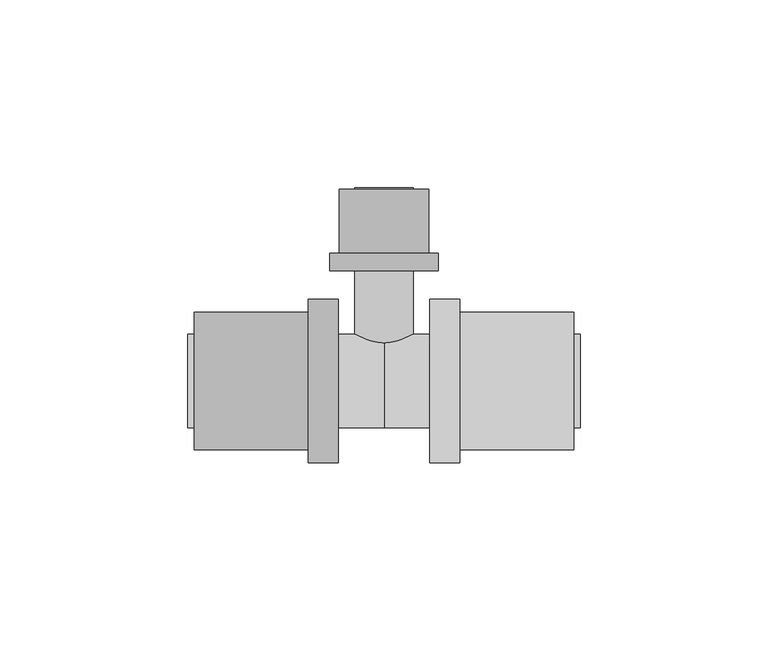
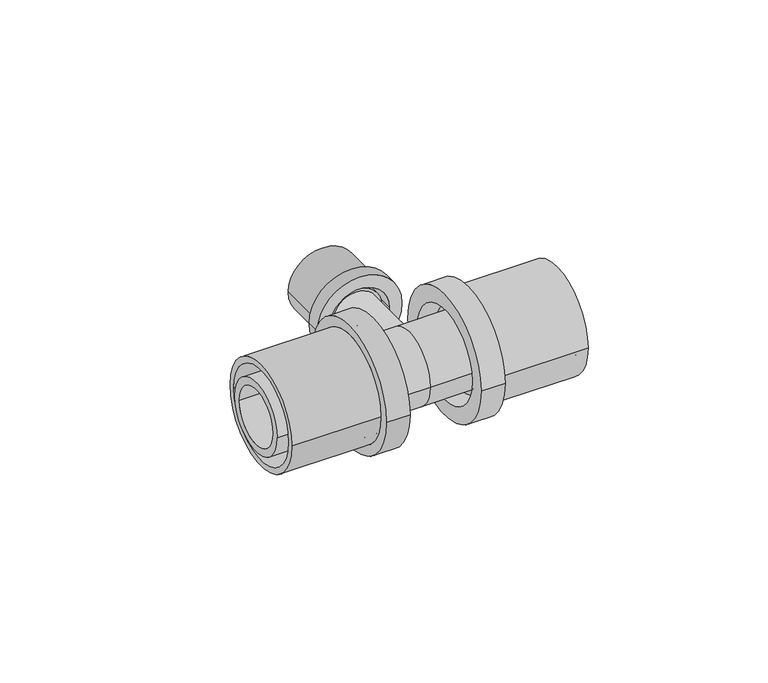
"""IFC4 building model written with IfcOpenShell, lengths in millimetres: pipe fitting geometry, FASTLOC_T-piece_EX+ : FSL T-Piece EX+ AT."""

from ifc_helpers import new_model, si_unit, frame, origin, place, context, project, spatial, polyline, circle_curve, source, transform, mapped, element, save
from ifc_brep_helpers import plane_surface, cylinder_surface, revolved_surface, advanced_brep


def pipe_fitting_048a34f4(model_context):
    return source(origin(), model_context, "Body", "AdvancedBrep", [
        advanced_brep(
        [(20.2, 21.8, 0.0), (20.2, -21.8, 0.0), (12.2, -21.8, 0.0), (12.2, 21.8, 0.0), (50.5, 18.35, 0.0), (50.5, -18.35, 0.0), (20.2, -18.35, 0.0), (20.2, 18.35, 0.0), (12.2, 16.2, 0.0), (12.2, -16.2, 0.0), (50.5, -16.2, 0.0), (50.5, 16.2, 0.0)],
        [
            (0, 1, circle_curve(frame((20.2, 0.0, 0.0), z_axis=(-1.0, 0.0, 0.0), x_axis=(0.0, -1.0, 0.0)), 21.8)),
            (1, 2),
            (2, 3, circle_curve(frame((12.2, 0.0, 0.0), z_axis=(1.0, 0.0, 0.0), x_axis=(0.0, -1.0, 0.0)), 21.8)),
            (3, 0),
            (4, 5, circle_curve(frame((50.5, 0.0, 0.0), z_axis=(-1.0, 0.0, 0.0), x_axis=(0.0, -1.0, 0.0)), 18.35)),
            (5, 6),
            (6, 7, circle_curve(frame((20.2, 0.0, 0.0), z_axis=(1.0, 0.0, 0.0), x_axis=(0.0, -1.0, 0.0)), 18.35)),
            (7, 4),
            (8, 9, circle_curve(frame((12.2, 0.0, 0.0), z_axis=(-1.0, 0.0, 0.0), x_axis=(0.0, -1.0, 0.0)), 16.2)),
            (9, 10),
            (10, 11, circle_curve(frame((50.5, 0.0, 0.0), z_axis=(1.0, 0.0, 0.0), x_axis=(0.0, -1.0, 0.0)), 16.2)),
            (11, 8),
            (1, 0, circle_curve(frame((20.2, 0.0, 0.0), z_axis=(-1.0, 0.0, 0.0), x_axis=(0.0, 1.0, 0.0)), 21.8)),
            (3, 2, circle_curve(frame((12.2, 0.0, 0.0), z_axis=(1.0, 0.0, 0.0), x_axis=(0.0, 1.0, 0.0)), 21.8)),
            (6, 7, circle_curve(frame((20.2, 0.0, 0.0), z_axis=(-1.0, 0.0, 0.0), x_axis=(0.0, 1.0, 0.0)), 18.35)),
            (5, 4, circle_curve(frame((50.5, 0.0, 0.0), z_axis=(-1.0, 0.0, 0.0), x_axis=(0.0, 1.0, 0.0)), 18.35)),
            (10, 11, circle_curve(frame((50.5, 0.0, 0.0), z_axis=(-1.0, 0.0, 0.0), x_axis=(0.0, 1.0, 0.0)), 16.2)),
            (9, 8, circle_curve(frame((12.2, 0.0, 0.0), z_axis=(-1.0, 0.0, 0.0), x_axis=(0.0, 1.0, 0.0)), 16.2)),
        ],
        [
            cylinder_surface(frame((12.2, 0.0, 0.0), z_axis=(1.0, 0.0, 0.0), x_axis=(0.0, -1.0, 0.0)), 21.8),
            cylinder_surface(frame((12.2, 0.0, 0.0), z_axis=(1.0, 0.0, 0.0), x_axis=(0.0, -1.0, 0.0)), 18.35),
            revolved_surface(polyline([(50.5, -16.2, 0.0), (12.2, -16.2, 0.0)]), (12.2, 0.0, 0.0), (1.0, 0.0, 0.0)),
            cylinder_surface(frame((12.2, 0.0, 0.0), z_axis=(1.0, 0.0, 0.0), x_axis=(0.0, 1.0, 0.0)), 21.8),
            plane_surface(frame((20.2, 0.0, 0.0), z_axis=(1.0, 0.0, 0.0), x_axis=(0.0, 1.0, 0.0))),
            cylinder_surface(frame((12.2, 0.0, 0.0), z_axis=(1.0, 0.0, 0.0), x_axis=(0.0, 1.0, 0.0)), 18.35),
            plane_surface(frame((50.5, 0.0, 0.0), z_axis=(1.0, 0.0, 0.0), x_axis=(0.0, 1.0, 0.0))),
            revolved_surface(polyline([(50.5, 16.2, 0.0), (12.2, 16.2, 0.0)]), (12.2, 0.0, 0.0), (1.0, 0.0, 0.0)),
            plane_surface(frame((12.2, 0.0, 0.0), z_axis=(-1.0, 0.0, 0.0), x_axis=(0.0, 1.0, 0.0))),
        ],
        [
            (0, [[1, 2, 3, 4]]),
            (1, [[5, 6, 7, 8]]),
            (2, [[9, 10, 11, 12]]),
            (3, [[13, -4, 14, -2]]),
            (4, [[-13, -1], [15, -7]]),
            (5, [[16, -8, -15, -6]]),
            (6, [[-16, -5], [17, -11]]),
            (7, [[18, -12, -17, -10]]),
            (8, [[-14, -3], [-18, -9]]),
        ],
    ),
        advanced_brep(
        [(-20.2, -21.8, 0.0), (-20.2, 21.8, 0.0), (-12.2, 21.8, 0.0), (-12.2, -21.8, 0.0), (-50.5, -18.35, 0.0), (-50.5, 18.35, 0.0), (-20.2, 18.35, 0.0), (-20.2, -18.35, 0.0), (-12.2, -16.2, 0.0), (-12.2, 16.2, 0.0), (-50.5, 16.2, 0.0), (-50.5, -16.2, 0.0)],
        [
            (0, 1, circle_curve(frame((-20.2, 0.0, 0.0), z_axis=(1.0, 0.0, 0.0), x_axis=(0.0, 1.0, 0.0)), 21.8)),
            (1, 2),
            (2, 3, circle_curve(frame((-12.2, 0.0, 0.0), z_axis=(-1.0, 0.0, 0.0), x_axis=(0.0, 1.0, 0.0)), 21.8)),
            (3, 0),
            (4, 5, circle_curve(frame((-50.5, 0.0, 0.0), z_axis=(1.0, 0.0, 0.0), x_axis=(0.0, 1.0, 0.0)), 18.35)),
            (5, 6),
            (6, 7, circle_curve(frame((-20.2, 0.0, 0.0), z_axis=(-1.0, 0.0, 0.0), x_axis=(0.0, 1.0, 0.0)), 18.35)),
            (7, 4),
            (8, 9, circle_curve(frame((-12.2, 0.0, 0.0), z_axis=(1.0, 0.0, 0.0), x_axis=(0.0, 1.0, 0.0)), 16.2)),
            (9, 10),
            (10, 11, circle_curve(frame((-50.5, 0.0, 0.0), z_axis=(-1.0, 0.0, 0.0), x_axis=(0.0, 1.0, 0.0)), 16.2)),
            (11, 8),
            (1, 0, circle_curve(frame((-20.2, 0.0, 0.0), z_axis=(1.0, 0.0, 0.0), x_axis=(0.0, -1.0, 0.0)), 21.8)),
            (3, 2, circle_curve(frame((-12.2, 0.0, 0.0), z_axis=(-1.0, 0.0, 0.0), x_axis=(0.0, -1.0, 0.0)), 21.8)),
            (6, 7, circle_curve(frame((-20.2, 0.0, 0.0), z_axis=(1.0, 0.0, 0.0), x_axis=(0.0, -1.0, 0.0)), 18.35)),
            (5, 4, circle_curve(frame((-50.5, 0.0, 0.0), z_axis=(1.0, 0.0, 0.0), x_axis=(0.0, -1.0, 0.0)), 18.35)),
            (10, 11, circle_curve(frame((-50.5, 0.0, 0.0), z_axis=(1.0, 0.0, 0.0), x_axis=(0.0, -1.0, 0.0)), 16.2)),
            (9, 8, circle_curve(frame((-12.2, 0.0, 0.0), z_axis=(1.0, 0.0, 0.0), x_axis=(0.0, -1.0, 0.0)), 16.2)),
        ],
        [
            cylinder_surface(frame((-12.2, 0.0, 0.0), z_axis=(-1.0, 0.0, 0.0), x_axis=(0.0, 1.0, 0.0)), 21.8),
            cylinder_surface(frame((-12.2, 0.0, 0.0), z_axis=(-1.0, 0.0, 0.0), x_axis=(0.0, 1.0, 0.0)), 18.35),
            revolved_surface(polyline([(-50.5, 16.2, 0.0), (-12.2, 16.2, 0.0)]), (-12.2, 0.0, 0.0), (-1.0, 0.0, 0.0)),
            cylinder_surface(frame((-12.2, 0.0, 0.0), z_axis=(-1.0, 0.0, 0.0), x_axis=(0.0, -1.0, 0.0)), 21.8),
            plane_surface(frame((-20.2, 0.0, 0.0), z_axis=(-1.0, 0.0, 0.0), x_axis=(0.0, -1.0, 0.0))),
            cylinder_surface(frame((-12.2, 0.0, 0.0), z_axis=(-1.0, 0.0, 0.0), x_axis=(0.0, -1.0, 0.0)), 18.35),
            plane_surface(frame((-50.5, 0.0, 0.0), z_axis=(-1.0, 0.0, 0.0), x_axis=(0.0, -1.0, 0.0))),
            revolved_surface(polyline([(-50.5, -16.2, 0.0), (-12.2, -16.2, 0.0)]), (-12.2, 0.0, 0.0), (-1.0, 0.0, 0.0)),
            plane_surface(frame((-12.2, 0.0, 0.0), z_axis=(1.0, 0.0, 0.0), x_axis=(0.0, -1.0, 0.0))),
        ],
        [
            (0, [[1, 2, 3, 4]]),
            (1, [[5, 6, 7, 8]]),
            (2, [[9, 10, 11, 12]]),
            (3, [[13, -4, 14, -2]]),
            (4, [[-13, -1], [15, -7]]),
            (5, [[16, -8, -15, -6]]),
            (6, [[-16, -5], [17, -11]]),
            (7, [[18, -12, -17, -10]]),
            (8, [[-14, -3], [-18, -9]]),
        ],
    ),
        advanced_brep(
        [(-14.5, 34.0, 0.0), (14.5, 34.0, 0.0), (14.5, 29.3, 0.0), (-14.5, 29.3, 0.0), (-11.85, 51.0, 0.0), (11.85, 51.0, 0.0), (11.85, 34.0, 0.0), (-11.85, 34.0, 0.0), (-10.15, 29.3, 0.0), (10.15, 29.3, 0.0), (10.15, 51.0, 0.0), (-10.15, 51.0, 0.0)],
        [
            (0, 1, circle_curve(frame((0.0, 34.0, 0.0), z_axis=(0.0, -1.0, 0.0), x_axis=(1.0, 0.0, 0.0)), 14.5)),
            (1, 2),
            (2, 3, circle_curve(frame((0.0, 29.3, 0.0), z_axis=(0.0, 1.0, 0.0), x_axis=(1.0, 0.0, 0.0)), 14.5)),
            (3, 0),
            (4, 5, circle_curve(frame((0.0, 51.0, 0.0), z_axis=(0.0, -1.0, 0.0), x_axis=(1.0, 0.0, 0.0)), 11.85)),
            (5, 6),
            (6, 7, circle_curve(frame((0.0, 34.0, 0.0), z_axis=(0.0, 1.0, 0.0), x_axis=(1.0, 0.0, 0.0)), 11.85)),
            (7, 4),
            (8, 9, circle_curve(frame((0.0, 29.3, 0.0), z_axis=(0.0, -1.0, 0.0), x_axis=(1.0, 0.0, 0.0)), 10.15)),
            (9, 10),
            (10, 11, circle_curve(frame((0.0, 51.0, 0.0), z_axis=(0.0, 1.0, 0.0), x_axis=(1.0, 0.0, 0.0)), 10.15)),
            (11, 8),
            (1, 0, circle_curve(frame((0.0, 34.0, 0.0), z_axis=(0.0, -1.0, 0.0), x_axis=(-1.0, 0.0, 0.0)), 14.5)),
            (3, 2, circle_curve(frame((0.0, 29.3, 0.0), z_axis=(0.0, 1.0, 0.0), x_axis=(-1.0, 0.0, 0.0)), 14.5)),
            (6, 7, circle_curve(frame((0.0, 34.0, 0.0), z_axis=(0.0, -1.0, 0.0), x_axis=(-1.0, 0.0, 0.0)), 11.85)),
            (5, 4, circle_curve(frame((0.0, 51.0, 0.0), z_axis=(0.0, -1.0, 0.0), x_axis=(-1.0, 0.0, 0.0)), 11.85)),
            (10, 11, circle_curve(frame((0.0, 51.0, 0.0), z_axis=(0.0, -1.0, 0.0), x_axis=(-1.0, 0.0, 0.0)), 10.15)),
            (9, 8, circle_curve(frame((0.0, 29.3, 0.0), z_axis=(0.0, -1.0, 0.0), x_axis=(-1.0, 0.0, 0.0)), 10.15)),
        ],
        [
            cylinder_surface(frame((0.0, 29.3, 0.0), z_axis=(0.0, 1.0, 0.0), x_axis=(1.0, 0.0, 0.0)), 14.5),
            cylinder_surface(frame((0.0, 29.3, 0.0), z_axis=(0.0, 1.0, 0.0), x_axis=(1.0, 0.0, 0.0)), 11.85),
            revolved_surface(polyline([(10.15, 51.0, 0.0), (10.15, 29.3, 0.0)]), (0.0, 29.3, 0.0), (0.0, 1.0, 0.0)),
            cylinder_surface(frame((0.0, 29.3, 0.0), z_axis=(0.0, 1.0, 0.0), x_axis=(-1.0, 0.0, 0.0)), 14.5),
            plane_surface(frame((0.0, 34.0, 0.0), z_axis=(0.0, 1.0, 0.0), x_axis=(-1.0, 0.0, 0.0))),
            cylinder_surface(frame((0.0, 29.3, 0.0), z_axis=(0.0, 1.0, 0.0), x_axis=(-1.0, 0.0, 0.0)), 11.85),
            plane_surface(frame((0.0, 51.0, 0.0), z_axis=(0.0, 1.0, 0.0), x_axis=(-1.0, 0.0, 0.0))),
            revolved_surface(polyline([(-10.15, 51.0, 0.0), (-10.15, 29.3, 0.0)]), (0.0, 29.3, 0.0), (0.0, 1.0, 0.0)),
            plane_surface(frame((0.0, 29.3, 0.0), z_axis=(0.0, -1.0, 0.0), x_axis=(-1.0, 0.0, 0.0))),
        ],
        [
            (0, [[1, 2, 3, 4]]),
            (1, [[5, 6, 7, 8]]),
            (2, [[9, 10, 11, 12]]),
            (3, [[13, -4, 14, -2]]),
            (4, [[-13, -1], [15, -7]]),
            (5, [[16, -8, -15, -6]]),
            (6, [[-16, -5], [17, -11]]),
            (7, [[18, -12, -17, -10]]),
            (8, [[-14, -3], [-18, -9]]),
        ],
    ),
        advanced_brep(
        [(0.0, 12.5, 0.0), (0.0, -12.5, 0.0), (-17.2, -12.5, 0.0), (-17.2, 12.5, 0.0), (17.2, 12.5, 0.0), (17.2, -12.5, 0.0), (20.2, 14.1, 0.0), (20.2, -14.1, 0.0), (17.2, -14.1, 0.0), (17.2, 14.1, 0.0), (52.2, 12.5, 0.0), (52.2, -12.5, 0.0), (20.2, -12.5, 0.0), (20.2, 12.5, 0.0), (-52.2, 9.85, 0.0), (-52.2, -9.85, 0.0), (52.2, -9.85, 0.0), (52.2, 9.85, 0.0), (-20.2, 12.5, 0.0), (-20.2, -12.5, 0.0), (-52.2, -12.5, 0.0), (-52.2, 12.5, 0.0), (-17.2, 16.0, 0.0), (-17.2, -16.0, 0.0), (-20.2, -16.0, 0.0), (-20.2, 16.0, 0.0)],
        [
            (0, 1, circle_curve(frame((0.0, 0.0, 0.0), z_axis=(-1.0, 0.0, 0.0), x_axis=(0.0, -1.0, 0.0)), 12.5)),
            (1, 2),
            (2, 3, circle_curve(frame((-17.2, 0.0, 0.0), z_axis=(1.0, 0.0, 0.0), x_axis=(0.0, -1.0, 0.0)), 12.5)),
            (3, 0),
            (4, 5, circle_curve(frame((17.2, 0.0, 0.0), z_axis=(-1.0, 0.0, 0.0), x_axis=(0.0, -1.0, 0.0)), 12.5)),
            (5, 1),
            (0, 4),
            (6, 7, circle_curve(frame((20.2, 0.0, 0.0), z_axis=(-1.0, 0.0, 0.0), x_axis=(0.0, -1.0, 0.0)), 14.1)),
            (7, 8),
            (8, 9, circle_curve(frame((17.2, 0.0, 0.0), z_axis=(1.0, 0.0, 0.0), x_axis=(0.0, -1.0, 0.0)), 14.1)),
            (9, 6),
            (10, 11, circle_curve(frame((52.2, 0.0, 0.0), z_axis=(-1.0, 0.0, 0.0), x_axis=(0.0, -1.0, 0.0)), 12.5)),
            (11, 12),
            (12, 13, circle_curve(frame((20.2, 0.0, 0.0), z_axis=(1.0, 0.0, 0.0), x_axis=(0.0, -1.0, 0.0)), 12.5)),
            (13, 10),
            (14, 15, circle_curve(frame((-52.2, 0.0, 0.0), z_axis=(-1.0, 0.0, 0.0), x_axis=(0.0, -1.0, 0.0)), 9.85)),
            (15, 16),
            (16, 17, circle_curve(frame((52.2, 0.0, 0.0), z_axis=(1.0, 0.0, 0.0), x_axis=(0.0, -1.0, 0.0)), 9.85)),
            (17, 14),
            (18, 19, circle_curve(frame((-20.2, 0.0, 0.0), z_axis=(-1.0, 0.0, 0.0), x_axis=(0.0, -1.0, 0.0)), 12.5)),
            (19, 20),
            (20, 21, circle_curve(frame((-52.2, 0.0, 0.0), z_axis=(1.0, 0.0, 0.0), x_axis=(0.0, -1.0, 0.0)), 12.5)),
            (21, 18),
            (22, 23, circle_curve(frame((-17.2, 0.0, 0.0), z_axis=(-1.0, 0.0, 0.0), x_axis=(0.0, -1.0, 0.0)), 16.0)),
            (23, 24),
            (24, 25, circle_curve(frame((-20.2, 0.0, 0.0), z_axis=(1.0, 0.0, 0.0), x_axis=(0.0, -1.0, 0.0)), 16.0)),
            (25, 22),
            (22, 23, circle_curve(frame((-17.2, 0.0, 0.0), z_axis=(1.0, 0.0, 0.0), x_axis=(0.0, 1.0, 0.0)), 16.0)),
            (2, 3, circle_curve(frame((-17.2, 0.0, 0.0), z_axis=(-1.0, 0.0, 0.0), x_axis=(0.0, 1.0, 0.0)), 12.5)),
            (1, 0, circle_curve(frame((0.0, 0.0, 0.0), z_axis=(-1.0, 0.0, 0.0), x_axis=(0.0, 1.0, 0.0)), 12.5)),
            (5, 4, circle_curve(frame((17.2, 0.0, 0.0), z_axis=(-1.0, 0.0, 0.0), x_axis=(0.0, 1.0, 0.0)), 12.5)),
            (8, 9, circle_curve(frame((17.2, 0.0, 0.0), z_axis=(-1.0, 0.0, 0.0), x_axis=(0.0, 1.0, 0.0)), 14.1)),
            (7, 6, circle_curve(frame((20.2, 0.0, 0.0), z_axis=(-1.0, 0.0, 0.0), x_axis=(0.0, 1.0, 0.0)), 14.1)),
            (12, 13, circle_curve(frame((20.2, 0.0, 0.0), z_axis=(-1.0, 0.0, 0.0), x_axis=(0.0, 1.0, 0.0)), 12.5)),
            (11, 10, circle_curve(frame((52.2, 0.0, 0.0), z_axis=(-1.0, 0.0, 0.0), x_axis=(0.0, 1.0, 0.0)), 12.5)),
            (16, 17, circle_curve(frame((52.2, 0.0, 0.0), z_axis=(-1.0, 0.0, 0.0), x_axis=(0.0, 1.0, 0.0)), 9.85)),
            (15, 14, circle_curve(frame((-52.2, 0.0, 0.0), z_axis=(-1.0, 0.0, 0.0), x_axis=(0.0, 1.0, 0.0)), 9.85)),
            (20, 21, circle_curve(frame((-52.2, 0.0, 0.0), z_axis=(-1.0, 0.0, 0.0), x_axis=(0.0, 1.0, 0.0)), 12.5)),
            (19, 18, circle_curve(frame((-20.2, 0.0, 0.0), z_axis=(-1.0, 0.0, 0.0), x_axis=(0.0, 1.0, 0.0)), 12.5)),
            (24, 25, circle_curve(frame((-20.2, 0.0, 0.0), z_axis=(-1.0, 0.0, 0.0), x_axis=(0.0, 1.0, 0.0)), 16.0)),
        ],
        [
            cylinder_surface(frame((0.0, 0.0, 0.0), z_axis=(1.0, 0.0, 0.0), x_axis=(0.0, -1.0, 0.0)), 12.5),
            cylinder_surface(frame((0.0, 0.0, 0.0), z_axis=(1.0, 0.0, 0.0), x_axis=(0.0, -1.0, 0.0)), 14.1),
            revolved_surface(polyline([(52.2, -9.85, 0.0), (-52.2, -9.85, 0.0)]), (0.0, 0.0, 0.0), (1.0, 0.0, 0.0)),
            cylinder_surface(frame((0.0, 0.0, 0.0), z_axis=(1.0, 0.0, 0.0), x_axis=(0.0, -1.0, 0.0)), 16.0),
            plane_surface(frame((-17.2, 0.0, 0.0), z_axis=(1.0, 0.0, 0.0), x_axis=(0.0, 1.0, 0.0))),
            cylinder_surface(frame((0.0, 0.0, 0.0), z_axis=(1.0, 0.0, 0.0), x_axis=(0.0, 1.0, 0.0)), 12.5),
            plane_surface(frame((17.2, 0.0, 0.0), z_axis=(-1.0, 0.0, 0.0), x_axis=(0.0, 1.0, 0.0))),
            cylinder_surface(frame((0.0, 0.0, 0.0), z_axis=(1.0, 0.0, 0.0), x_axis=(0.0, 1.0, 0.0)), 14.1),
            plane_surface(frame((20.2, 0.0, 0.0), z_axis=(1.0, 0.0, 0.0), x_axis=(0.0, 1.0, 0.0))),
            plane_surface(frame((52.2, 0.0, 0.0), z_axis=(1.0, 0.0, 0.0), x_axis=(0.0, 1.0, 0.0))),
            revolved_surface(polyline([(52.2, 9.85, 0.0), (-52.2, 9.85, 0.0)]), (0.0, 0.0, 0.0), (1.0, 0.0, 0.0)),
            plane_surface(frame((-52.2, 0.0, 0.0), z_axis=(-1.0, 0.0, 0.0), x_axis=(0.0, 1.0, 0.0))),
            plane_surface(frame((-20.2, 0.0, 0.0), z_axis=(-1.0, 0.0, 0.0), x_axis=(0.0, 1.0, 0.0))),
            cylinder_surface(frame((0.0, 0.0, 0.0), z_axis=(1.0, 0.0, 0.0), x_axis=(0.0, 1.0, 0.0)), 16.0),
        ],
        [
            (0, [[1, 2, 3, 4]]),
            (0, [[5, 6, -1, 7]]),
            (1, [[8, 9, 10, 11]]),
            (0, [[12, 13, 14, 15]]),
            (2, [[16, 17, 18, 19]]),
            (0, [[20, 21, 22, 23]]),
            (3, [[24, 25, 26, 27]]),
            (4, [[28, -24], [29, -3]]),
            (5, [[30, -4, -29, -2]]),
            (5, [[31, -7, -30, -6]]),
            (6, [[32, -10], [-31, -5]]),
            (7, [[33, -11, -32, -9]]),
            (8, [[-33, -8], [34, -14]]),
            (5, [[35, -15, -34, -13]]),
            (9, [[-35, -12], [36, -18]]),
            (10, [[37, -19, -36, -17]]),
            (11, [[38, -22], [-37, -16]]),
            (5, [[39, -23, -38, -21]]),
            (12, [[40, -26], [-39, -20]]),
            (13, [[-28, -27, -40, -25]]),
        ],
    ),
        advanced_brep(
        [(5.75, 51.4, 0.0), (-5.75, 51.4, 0.0), (-5.75, 0.0, 0.0), (5.75, 0.0, 0.0), (7.75, 0.0, 0.0), (-7.75, 0.0, 0.0), (-7.75, 31.33, 0.0), (7.75, 31.33, 0.0), (8.8, 31.33, 0.0), (-8.8, 31.33, 0.0), (-8.8, 34.0, 0.0), (8.8, 34.0, 0.0), (7.75, 34.0, 0.0), (-7.75, 34.0, 0.0), (-7.75, 51.4, 0.0), (7.75, 51.4, 0.0)],
        [
            (0, 1, circle_curve(frame((0.0, 51.4, 0.0), z_axis=(0.0, 1.0, 0.0), x_axis=(-1.0, 0.0, 0.0)), 5.75)),
            (1, 2),
            (2, 3, circle_curve(frame((0.0, 0.0, 0.0), z_axis=(0.0, -1.0, 0.0), x_axis=(-1.0, 0.0, 0.0)), 5.75)),
            (3, 0),
            (4, 5, circle_curve(frame((0.0, 0.0, 0.0), z_axis=(0.0, 1.0, 0.0), x_axis=(-1.0, 0.0, 0.0)), 7.75)),
            (5, 6),
            (6, 7, circle_curve(frame((0.0, 31.33, 0.0), z_axis=(0.0, -1.0, 0.0), x_axis=(-1.0, 0.0, 0.0)), 7.75)),
            (7, 4),
            (8, 9, circle_curve(frame((0.0, 31.33, 0.0), z_axis=(0.0, 1.0, 0.0), x_axis=(-1.0, 0.0, 0.0)), 8.8)),
            (9, 10),
            (10, 11, circle_curve(frame((0.0, 34.0, 0.0), z_axis=(0.0, -1.0, 0.0), x_axis=(-1.0, 0.0, 0.0)), 8.8)),
            (11, 8),
            (12, 13, circle_curve(frame((0.0, 34.0, 0.0), z_axis=(0.0, 1.0, 0.0), x_axis=(-1.0, 0.0, 0.0)), 7.75)),
            (13, 14),
            (14, 15, circle_curve(frame((0.0, 51.4, 0.0), z_axis=(0.0, -1.0, 0.0), x_axis=(-1.0, 0.0, 0.0)), 7.75)),
            (15, 12),
            (1, 0, circle_curve(frame((0.0, 51.4, 0.0), z_axis=(0.0, 1.0, 0.0), x_axis=(1.0, 0.0, 0.0)), 5.75)),
            (3, 2, circle_curve(frame((0.0, 0.0, 0.0), z_axis=(0.0, -1.0, 0.0), x_axis=(1.0, 0.0, 0.0)), 5.75)),
            (4, 5, circle_curve(frame((0.0, 0.0, 0.0), z_axis=(0.0, -1.0, 0.0), x_axis=(1.0, 0.0, 0.0)), 7.75)),
            (7, 6, circle_curve(frame((0.0, 31.33, 0.0), z_axis=(0.0, -1.0, 0.0), x_axis=(1.0, 0.0, 0.0)), 7.75)),
            (8, 9, circle_curve(frame((0.0, 31.33, 0.0), z_axis=(0.0, -1.0, 0.0), x_axis=(1.0, 0.0, 0.0)), 8.8)),
            (11, 10, circle_curve(frame((0.0, 34.0, 0.0), z_axis=(0.0, -1.0, 0.0), x_axis=(1.0, 0.0, 0.0)), 8.8)),
            (12, 13, circle_curve(frame((0.0, 34.0, 0.0), z_axis=(0.0, -1.0, 0.0), x_axis=(1.0, 0.0, 0.0)), 7.75)),
            (15, 14, circle_curve(frame((0.0, 51.4, 0.0), z_axis=(0.0, -1.0, 0.0), x_axis=(1.0, 0.0, 0.0)), 7.75)),
        ],
        [
            revolved_surface(polyline([(-5.75, 0.0, 0.0), (-5.75, 51.4, 0.0)]), (0.0, 0.0, 0.0), (0.0, -1.0, 0.0)),
            cylinder_surface(frame((0.0, 0.0, 0.0), z_axis=(0.0, -1.0, 0.0), x_axis=(-1.0, 0.0, 0.0)), 7.75),
            cylinder_surface(frame((0.0, 0.0, 0.0), z_axis=(0.0, -1.0, 0.0), x_axis=(-1.0, 0.0, 0.0)), 8.8),
            revolved_surface(polyline([(5.75, 0.0, 0.0), (5.75, 51.4, 0.0)]), (0.0, 0.0, 0.0), (0.0, -1.0, 0.0)),
            plane_surface(frame((0.0, 0.0, 0.0), z_axis=(0.0, -1.0, 0.0), x_axis=(1.0, 0.0, 0.0))),
            cylinder_surface(frame((0.0, 0.0, 0.0), z_axis=(0.0, -1.0, 0.0), x_axis=(1.0, 0.0, 0.0)), 7.75),
            plane_surface(frame((0.0, 31.33, 0.0), z_axis=(0.0, -1.0, 0.0), x_axis=(1.0, 0.0, 0.0))),
            cylinder_surface(frame((0.0, 0.0, 0.0), z_axis=(0.0, -1.0, 0.0), x_axis=(1.0, 0.0, 0.0)), 8.8),
            plane_surface(frame((0.0, 34.0, 0.0), z_axis=(0.0, 1.0, 0.0), x_axis=(1.0, 0.0, 0.0))),
            plane_surface(frame((0.0, 51.4, 0.0), z_axis=(0.0, 1.0, 0.0), x_axis=(1.0, 0.0, 0.0))),
        ],
        [
            (0, [[1, 2, 3, 4]]),
            (1, [[5, 6, 7, 8]]),
            (2, [[9, 10, 11, 12]]),
            (1, [[13, 14, 15, 16]]),
            (3, [[17, -4, 18, -2]]),
            (4, [[19, -5], [-18, -3]]),
            (5, [[-19, -8, 20, -6]]),
            (6, [[21, -9], [-20, -7]]),
            (7, [[-21, -12, 22, -10]]),
            (8, [[-22, -11], [23, -13]]),
            (5, [[-23, -16, 24, -14]]),
            (9, [[-24, -15], [-17, -1]]),
        ],
    ),
    ])


if __name__ == "__main__":
    model = new_model("IFC4")
    model_context = context("Model", 3, world=origin())
    ifc_project = project(units=[si_unit("LENGTHUNIT", "METRE", prefix="MILLI")], contexts=[model_context])
    site = spatial("IfcSite", under=ifc_project)
    building = spatial("IfcBuilding", under=site)
    placement = place(None, origin())
    pipe_fitting_shape = pipe_fitting_048a34f4(model_context)
    element("IfcPipeFitting", 1, ObjectType="FASTLOC_T-piece_EX+ : FSL T-Piece EX+ AT", at=placement, inside=building, context=model_context, shape_type="MappedRepresentation", body=[
        mapped(pipe_fitting_shape, transform((0.0, 0.0, 0.0), x_axis=(1.0, 0.0, 0.0), y_axis=(0.0, 1.0, 0.0), z_axis=(0.0, 0.0, 1.0))),
    ])
    save(model, "model.ifc")
